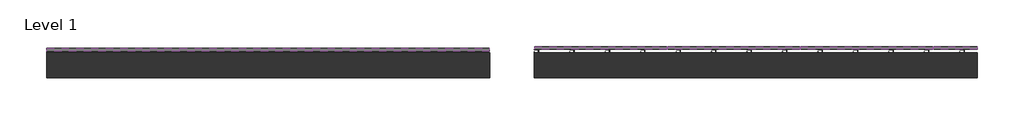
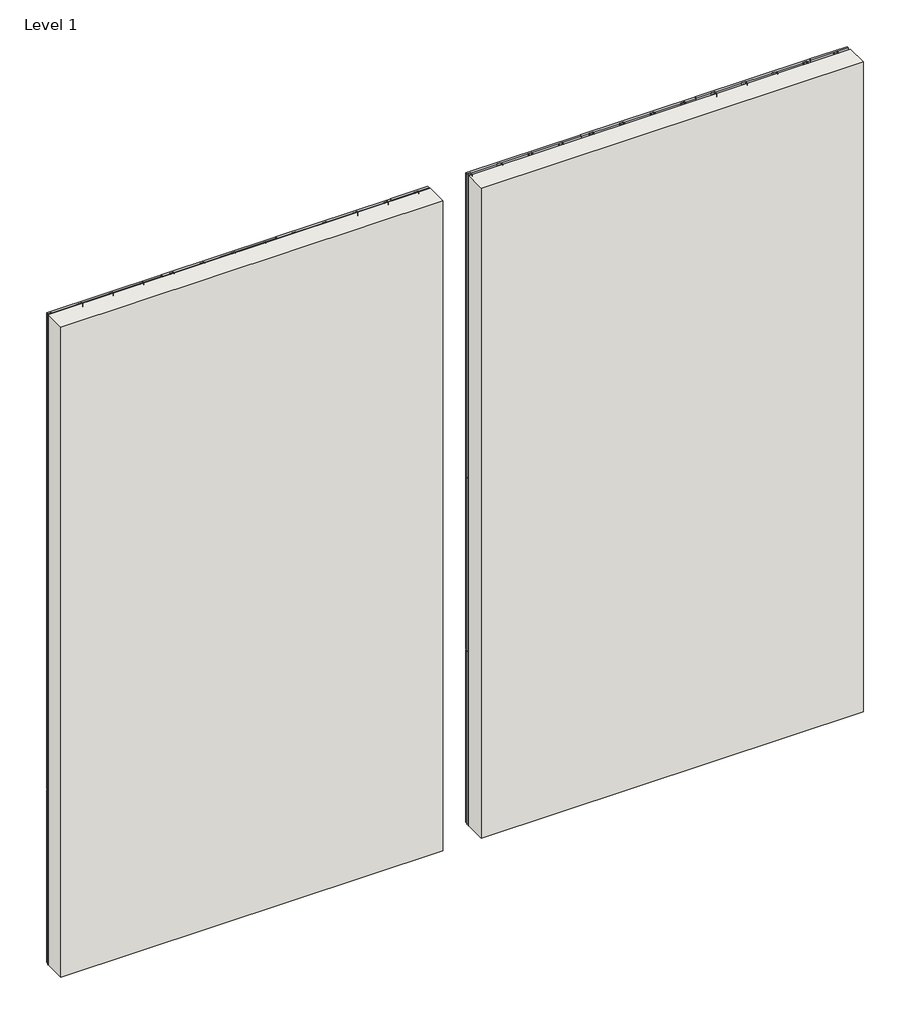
# One storey, incomplete: 32 plates, 2 fasteners, 2 walls.
"""IFC4 building model written with IfcOpenShell, lengths in millimetres."""

from ifc_helpers import new_model, si_unit, origin, origin_with_axes, place, context, project, spatial, polyline, outline, extrude, transform, mapped, element, save
from components import fastener_92f4360e, fastener_d01256d0, kws_generic_panel_kws_generic_panel_d79843ba, kws_generic_panel_kws_generic_panel_253ea42e, kws_generic_panel_kws_generic_panel_c40079bc, kws_generic_panel_kws_generic_panel_fbc156a4

model = new_model("IFC4")

# Units and contexts
model_context = context("Model", 3, world=origin())
ifc_project = project(units=[si_unit("LENGTHUNIT", "METRE", prefix="MILLI")], contexts=[model_context])

# Site, building, storey
site = spatial("IfcSite", under=ifc_project)
building = spatial("IfcBuilding", under=site)
storey = spatial("IfcBuildingStorey", under=building, Name="Level 1", Elevation=0.0)

# Fasteners
placement = place(None, origin())
fastener_shape = fastener_92f4360e(model_context)
element("IfcFastener", 1, ObjectType="Knight-Wall-Systems_CI-Girt : CI-Girt™ (STANDARD)", at=placement, inside=storey, context=model_context, shape_type="MappedRepresentation", body=[
    mapped(fastener_shape, transform((1331.976474, 7335.6586092, 0.0), x_axis=(1.0, 0.0, 0.0), y_axis=(0.0, 1.0, 0.0), z_axis=(0.0, 0.0, 1.0))),
])
fastener_2_shape = fastener_d01256d0(model_context)
element("IfcFastener", 2, ObjectType="Knight-Wall-Systems_CI-Girt : CI-Girt™ 150", at=placement, inside=storey, context=model_context, shape_type="MappedRepresentation", body=[
    mapped(fastener_2_shape, transform((6919.976474, 7335.6586092, 0.0), x_axis=(1.0, 0.0, 0.0), y_axis=(0.0, 1.0, 0.0), z_axis=(0.0, 0.0, 1.0))),
])

# Plates
kws_generic_panel_kws_generic_panel_shape = kws_generic_panel_kws_generic_panel_d79843ba(model_context)
element("IfcPlate", 3, ObjectType="KWS_Generic-Panel : KWS_Generic-Panel", at=placement, inside=storey, context=model_context, shape_type="MappedRepresentation", body=[
    mapped(kws_generic_panel_kws_generic_panel_shape, transform((2093.9764741, 7354.7086092, 0.0), x_axis=(1.0, 0.0, 0.0), y_axis=(0.0, 1.0, 0.0), z_axis=(0.0, 0.0, 1.0))),
])
element("IfcPlate", 4, ObjectType="KWS_Generic-Panel : KWS_Generic-Panel", at=placement, inside=storey, context=model_context, shape_type="MappedRepresentation", body=[
    mapped(kws_generic_panel_kws_generic_panel_shape, transform((3617.9764743, 7354.7086092, 0.0), x_axis=(1.0, 0.0, 0.0), y_axis=(0.0, 1.0, 0.0), z_axis=(0.0, 0.0, 1.0))),
])
element("IfcPlate", 5, ObjectType="KWS_Generic-Panel : KWS_Generic-Panel", at=placement, inside=storey, context=model_context, shape_type="MappedRepresentation", body=[
    mapped(kws_generic_panel_kws_generic_panel_shape, transform((5141.9764743, 7354.7086092, 0.0), x_axis=(1.0, 0.0, 0.0), y_axis=(0.0, 1.0, 0.0), z_axis=(0.0, 0.0, 1.0))),
])
element("IfcPlate", 6, ObjectType="KWS_Generic-Panel : KWS_Generic-Panel", at=placement, inside=storey, context=model_context, shape_type="MappedRepresentation", body=[
    mapped(kws_generic_panel_kws_generic_panel_shape, transform((2093.9764741, 7354.7086092, 2438.4), x_axis=(1.0, 0.0, 0.0), y_axis=(0.0, 1.0, 0.0), z_axis=(0.0, 0.0, 1.0))),
])
element("IfcPlate", 7, ObjectType="KWS_Generic-Panel : KWS_Generic-Panel", at=placement, inside=storey, context=model_context, shape_type="MappedRepresentation", body=[
    mapped(kws_generic_panel_kws_generic_panel_shape, transform((3617.9764743, 7354.7086092, 2438.4), x_axis=(1.0, 0.0, 0.0), y_axis=(0.0, 1.0, 0.0), z_axis=(0.0, 0.0, 1.0))),
])
element("IfcPlate", 8, ObjectType="KWS_Generic-Panel : KWS_Generic-Panel", at=placement, inside=storey, context=model_context, shape_type="MappedRepresentation", body=[
    mapped(kws_generic_panel_kws_generic_panel_shape, transform((5141.9764743, 7354.7086092, 2438.4), x_axis=(1.0, 0.0, 0.0), y_axis=(0.0, 1.0, 0.0), z_axis=(0.0, 0.0, 1.0))),
])
element("IfcPlate", 9, ObjectType="KWS_Generic-Panel : KWS_Generic-Panel", at=placement, inside=storey, context=model_context, shape_type="MappedRepresentation", body=[
    mapped(kws_generic_panel_kws_generic_panel_shape, transform((2093.9764741, 7354.7086092, 4876.8), x_axis=(1.0, 0.0, 0.0), y_axis=(0.0, 1.0, 0.0), z_axis=(0.0, 0.0, 1.0))),
])
element("IfcPlate", 10, ObjectType="KWS_Generic-Panel : KWS_Generic-Panel", at=placement, inside=storey, context=model_context, shape_type="MappedRepresentation", body=[
    mapped(kws_generic_panel_kws_generic_panel_shape, transform((3617.9764743, 7354.7086092, 4876.8), x_axis=(1.0, 0.0, 0.0), y_axis=(0.0, 1.0, 0.0), z_axis=(0.0, 0.0, 1.0))),
])
element("IfcPlate", 11, ObjectType="KWS_Generic-Panel : KWS_Generic-Panel", at=placement, inside=storey, context=model_context, shape_type="MappedRepresentation", body=[
    mapped(kws_generic_panel_kws_generic_panel_shape, transform((5141.9764743, 7354.7086092, 4876.8), x_axis=(1.0, 0.0, 0.0), y_axis=(0.0, 1.0, 0.0), z_axis=(0.0, 0.0, 1.0))),
])
element("IfcPlate", 12, ObjectType="KWS_Generic-Panel : KWS_Generic-Panel", at=placement, inside=storey, context=model_context, shape_type="MappedRepresentation", body=[
    mapped(kws_generic_panel_kws_generic_panel_shape, transform((7681.9764741, 7373.7586092, 0.0), x_axis=(1.0, 0.0, 0.0), y_axis=(0.0, 1.0, 0.0), z_axis=(0.0, 0.0, 1.0))),
])
element("IfcPlate", 13, ObjectType="KWS_Generic-Panel : KWS_Generic-Panel", at=placement, inside=storey, context=model_context, shape_type="MappedRepresentation", body=[
    mapped(kws_generic_panel_kws_generic_panel_shape, transform((9205.9764743, 7373.7586092, 0.0), x_axis=(1.0, 0.0, 0.0), y_axis=(0.0, 1.0, 0.0), z_axis=(0.0, 0.0, 1.0))),
])
element("IfcPlate", 14, ObjectType="KWS_Generic-Panel : KWS_Generic-Panel", at=placement, inside=storey, context=model_context, shape_type="MappedRepresentation", body=[
    mapped(kws_generic_panel_kws_generic_panel_shape, transform((10729.9764743, 7373.7586092, 0.0), x_axis=(1.0, 0.0, 0.0), y_axis=(0.0, 1.0, 0.0), z_axis=(0.0, 0.0, 1.0))),
])
element("IfcPlate", 15, ObjectType="KWS_Generic-Panel : KWS_Generic-Panel", at=placement, inside=storey, context=model_context, shape_type="MappedRepresentation", body=[
    mapped(kws_generic_panel_kws_generic_panel_shape, transform((7681.9764741, 7373.7586092, 2438.4), x_axis=(1.0, 0.0, 0.0), y_axis=(0.0, 1.0, 0.0), z_axis=(0.0, 0.0, 1.0))),
])
element("IfcPlate", 16, ObjectType="KWS_Generic-Panel : KWS_Generic-Panel", at=placement, inside=storey, context=model_context, shape_type="MappedRepresentation", body=[
    mapped(kws_generic_panel_kws_generic_panel_shape, transform((9205.9764743, 7373.7586092, 2438.4), x_axis=(1.0, 0.0, 0.0), y_axis=(0.0, 1.0, 0.0), z_axis=(0.0, 0.0, 1.0))),
])
element("IfcPlate", 17, ObjectType="KWS_Generic-Panel : KWS_Generic-Panel", at=placement, inside=storey, context=model_context, shape_type="MappedRepresentation", body=[
    mapped(kws_generic_panel_kws_generic_panel_shape, transform((10729.9764743, 7373.7586092, 2438.4), x_axis=(1.0, 0.0, 0.0), y_axis=(0.0, 1.0, 0.0), z_axis=(0.0, 0.0, 1.0))),
])
element("IfcPlate", 18, ObjectType="KWS_Generic-Panel : KWS_Generic-Panel", at=placement, inside=storey, context=model_context, shape_type="MappedRepresentation", body=[
    mapped(kws_generic_panel_kws_generic_panel_shape, transform((7681.9764741, 7373.7586092, 4876.8), x_axis=(1.0, 0.0, 0.0), y_axis=(0.0, 1.0, 0.0), z_axis=(0.0, 0.0, 1.0))),
])
element("IfcPlate", 19, ObjectType="KWS_Generic-Panel : KWS_Generic-Panel", at=placement, inside=storey, context=model_context, shape_type="MappedRepresentation", body=[
    mapped(kws_generic_panel_kws_generic_panel_shape, transform((9205.9764743, 7373.7586092, 4876.8), x_axis=(1.0, 0.0, 0.0), y_axis=(0.0, 1.0, 0.0), z_axis=(0.0, 0.0, 1.0))),
])
element("IfcPlate", 20, ObjectType="KWS_Generic-Panel : KWS_Generic-Panel", at=placement, inside=storey, context=model_context, shape_type="MappedRepresentation", body=[
    mapped(kws_generic_panel_kws_generic_panel_shape, transform((10729.9764743, 7373.7586092, 4876.8), x_axis=(1.0, 0.0, 0.0), y_axis=(0.0, 1.0, 0.0), z_axis=(0.0, 0.0, 1.0))),
])
kws_generic_panel_kws_generic_panel_2_shape = kws_generic_panel_kws_generic_panel_253ea42e(model_context)
element("IfcPlate", 21, ObjectType="KWS_Generic-Panel : KWS_Generic-Panel", at=placement, inside=storey, context=model_context, shape_type="MappedRepresentation", body=[
    mapped(kws_generic_panel_kws_generic_panel_2_shape, transform((6157.9764741, 7354.7086092, 0.0), x_axis=(1.0, 0.0, 0.0), y_axis=(0.0, 1.0, 0.0), z_axis=(0.0, 0.0, 1.0))),
])
element("IfcPlate", 22, ObjectType="KWS_Generic-Panel : KWS_Generic-Panel", at=placement, inside=storey, context=model_context, shape_type="MappedRepresentation", body=[
    mapped(kws_generic_panel_kws_generic_panel_2_shape, transform((6157.9764741, 7354.7086092, 2438.4), x_axis=(1.0, 0.0, 0.0), y_axis=(0.0, 1.0, 0.0), z_axis=(0.0, 0.0, 1.0))),
])
element("IfcPlate", 23, ObjectType="KWS_Generic-Panel : KWS_Generic-Panel", at=placement, inside=storey, context=model_context, shape_type="MappedRepresentation", body=[
    mapped(kws_generic_panel_kws_generic_panel_2_shape, transform((6157.9764741, 7354.7086092, 4876.8), x_axis=(1.0, 0.0, 0.0), y_axis=(0.0, 1.0, 0.0), z_axis=(0.0, 0.0, 1.0))),
])
element("IfcPlate", 24, ObjectType="KWS_Generic-Panel : KWS_Generic-Panel", at=placement, inside=storey, context=model_context, shape_type="MappedRepresentation", body=[
    mapped(kws_generic_panel_kws_generic_panel_2_shape, transform((11745.9764741, 7373.7586092, 0.0), x_axis=(1.0, 0.0, 0.0), y_axis=(0.0, 1.0, 0.0), z_axis=(0.0, 0.0, 1.0))),
])
element("IfcPlate", 25, ObjectType="KWS_Generic-Panel : KWS_Generic-Panel", at=placement, inside=storey, context=model_context, shape_type="MappedRepresentation", body=[
    mapped(kws_generic_panel_kws_generic_panel_2_shape, transform((11745.9764741, 7373.7586092, 2438.4), x_axis=(1.0, 0.0, 0.0), y_axis=(0.0, 1.0, 0.0), z_axis=(0.0, 0.0, 1.0))),
])
element("IfcPlate", 26, ObjectType="KWS_Generic-Panel : KWS_Generic-Panel", at=placement, inside=storey, context=model_context, shape_type="MappedRepresentation", body=[
    mapped(kws_generic_panel_kws_generic_panel_2_shape, transform((11745.9764741, 7373.7586092, 4876.8), x_axis=(1.0, 0.0, 0.0), y_axis=(0.0, 1.0, 0.0), z_axis=(0.0, 0.0, 1.0))),
])
kws_generic_panel_kws_generic_panel_3_shape = kws_generic_panel_kws_generic_panel_c40079bc(model_context)
element("IfcPlate", 27, ObjectType="KWS_Generic-Panel : KWS_Generic-Panel", at=placement, inside=storey, context=model_context, shape_type="MappedRepresentation", body=[
    mapped(kws_generic_panel_kws_generic_panel_3_shape, transform((2093.9764741, 7354.7086092, 7315.2), x_axis=(1.0, 0.0, 0.0), y_axis=(0.0, 1.0, 0.0), z_axis=(0.0, 0.0, 1.0))),
])
element("IfcPlate", 28, ObjectType="KWS_Generic-Panel : KWS_Generic-Panel", at=placement, inside=storey, context=model_context, shape_type="MappedRepresentation", body=[
    mapped(kws_generic_panel_kws_generic_panel_3_shape, transform((3617.9764743, 7354.7086092, 7315.2), x_axis=(1.0, 0.0, 0.0), y_axis=(0.0, 1.0, 0.0), z_axis=(0.0, 0.0, 1.0))),
])
element("IfcPlate", 29, ObjectType="KWS_Generic-Panel : KWS_Generic-Panel", at=placement, inside=storey, context=model_context, shape_type="MappedRepresentation", body=[
    mapped(kws_generic_panel_kws_generic_panel_3_shape, transform((5141.9764743, 7354.7086092, 7315.2), x_axis=(1.0, 0.0, 0.0), y_axis=(0.0, 1.0, 0.0), z_axis=(0.0, 0.0, 1.0))),
])
element("IfcPlate", 30, ObjectType="KWS_Generic-Panel : KWS_Generic-Panel", at=placement, inside=storey, context=model_context, shape_type="MappedRepresentation", body=[
    mapped(kws_generic_panel_kws_generic_panel_3_shape, transform((7681.9764741, 7373.7586092, 7315.2), x_axis=(1.0, 0.0, 0.0), y_axis=(0.0, 1.0, 0.0), z_axis=(0.0, 0.0, 1.0))),
])
element("IfcPlate", 31, ObjectType="KWS_Generic-Panel : KWS_Generic-Panel", at=placement, inside=storey, context=model_context, shape_type="MappedRepresentation", body=[
    mapped(kws_generic_panel_kws_generic_panel_3_shape, transform((9205.9764743, 7373.7586092, 7315.2), x_axis=(1.0, 0.0, 0.0), y_axis=(0.0, 1.0, 0.0), z_axis=(0.0, 0.0, 1.0))),
])
element("IfcPlate", 32, ObjectType="KWS_Generic-Panel : KWS_Generic-Panel", at=placement, inside=storey, context=model_context, shape_type="MappedRepresentation", body=[
    mapped(kws_generic_panel_kws_generic_panel_3_shape, transform((10729.9764743, 7373.7586092, 7315.2), x_axis=(1.0, 0.0, 0.0), y_axis=(0.0, 1.0, 0.0), z_axis=(0.0, 0.0, 1.0))),
])
kws_generic_panel_kws_generic_panel_4_shape = kws_generic_panel_kws_generic_panel_fbc156a4(model_context)
element("IfcPlate", 33, ObjectType="KWS_Generic-Panel : KWS_Generic-Panel", at=placement, inside=storey, context=model_context, shape_type="MappedRepresentation", body=[
    mapped(kws_generic_panel_kws_generic_panel_4_shape, transform((6157.9764741, 7354.7086092, 7315.2), x_axis=(1.0, 0.0, 0.0), y_axis=(0.0, 1.0, 0.0), z_axis=(0.0, 0.0, 1.0))),
])
element("IfcPlate", 34, ObjectType="KWS_Generic-Panel : KWS_Generic-Panel", at=placement, inside=storey, context=model_context, shape_type="MappedRepresentation", body=[
    mapped(kws_generic_panel_kws_generic_panel_4_shape, transform((11745.9764741, 7373.7586092, 7315.2), x_axis=(1.0, 0.0, 0.0), y_axis=(0.0, 1.0, 0.0), z_axis=(0.0, 0.0, 1.0))),
])

# Walls
element("IfcWall", 35, ObjectType="Exterior - Backup Wall System - Concrete Block", at=placement, inside=storey, context=model_context, shape_type="SweptSolid", body=[
    extrude(outline(polyline([(6411.976474, 7046.7336092), (1331.976474, 7046.7336092), (1331.976474, 7335.6586092), (6411.976474, 7335.6586092), (6411.976474, 7046.7336092)])), origin_with_axes(), (0.0, 0.0, 1.0), 9144.0),
])
element("IfcWall", 36, ObjectType="Exterior - Backup Wall System - Concrete Block", at=placement, inside=storey, context=model_context, shape_type="SweptSolid", body=[
    extrude(outline(polyline([(11999.976474, 7046.7336092), (6919.976474, 7046.7336092), (6919.976474, 7335.6586092), (11999.976474, 7335.6586092), (11999.976474, 7046.7336092)])), origin_with_axes(), (0.0, 0.0, 1.0), 9144.0),
])

save(model, "model.ifc")
